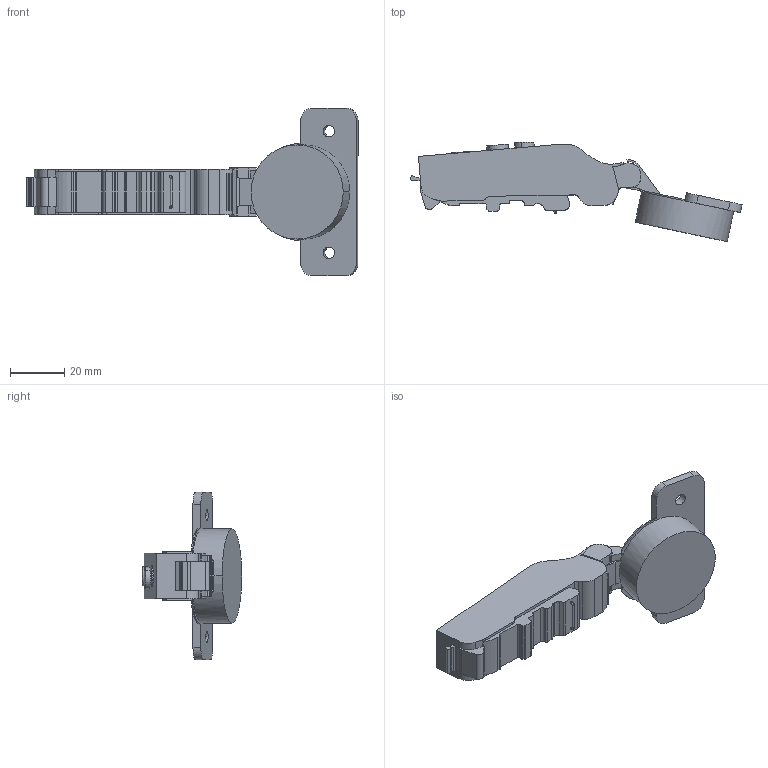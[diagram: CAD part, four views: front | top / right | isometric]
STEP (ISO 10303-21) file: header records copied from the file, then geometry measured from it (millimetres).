
FILE_DESCRIPTION (( 'STEP AP203' ), '1' );
FILE_NAME ('C81A875FAB-DTC3Dopen.STEP', '2023-06-09T05:21:01', ( 'Windows 蚚誧' ), ( '' ), 'SwSTEP 2.0', 'SolidWorks 2018', '' );
FILE_SCHEMA (( 'CONFIG_CONTROL_DESIGN' ));
Length unit declared in the file: millimetre
Products named in the file (1): C81A875FAB-DTC3Dopen
Bounding box: 122.73 x 36.77 x 62 mm (x, y, z)
Volume: 41075 mm3; surface area: 12487.1 mm2
Topology: 1 solids, 1 shells, 215 faces, 639 edges, 424 vertices
Faces by surface type: plane 101, cylinder 91, bspline 21, torus 2
Entity records: 10564 total; most frequent: CARTESIAN_POINT 4790, ORIENTED_EDGE 1278, DIRECTION 1131, EDGE_CURVE 639, VERTEX_POINT 424, AXIS2_PLACEMENT_3D 387, LINE 357, VECTOR 357
